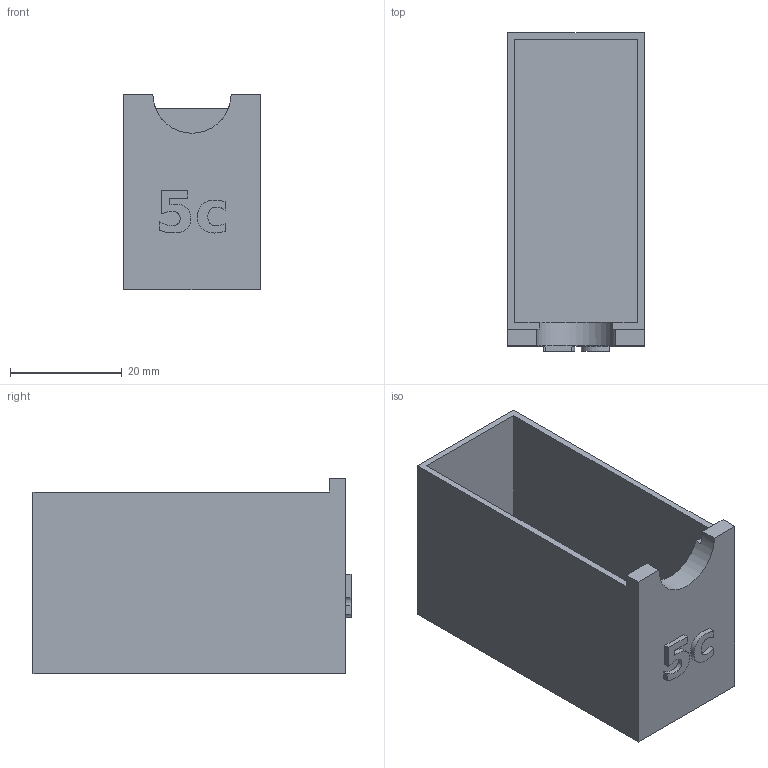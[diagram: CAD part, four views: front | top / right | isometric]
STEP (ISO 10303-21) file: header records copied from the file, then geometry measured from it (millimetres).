
FILE_DESCRIPTION(('Open CASCADE Model'),'2;1');
FILE_NAME('Open CASCADE Shape Model','2026-10-20T15:47:44',('Author'),( 'Open CASCADE'),'Open CASCADE STEP processor 8.0','build123d', 'Unknown');
FILE_SCHEMA(('AUTOMOTIVE_DESIGN { 1 0 10303 214 1 1 1 1 }'));
Length unit declared in the file: millimetre
Products named in the file (2): =>[0:1:1:2]; COMPOUND
Assembly tree (1 placements, depth 2):
  =>[0:1:1:2]
    COMPOUND
Bounding box: 24.41 x 56.84 x 35 mm (x, y, z)
Volume: 9500 mm3; surface area: 12562.7 mm2
Topology: 1 solids, 1 shells, 30 faces, 78 edges, 52 vertices
Faces by surface type: plane 25, extrusion 4, cylinder 1
Entity records: 2087 total; most frequent: CARTESIAN_POINT 533, DIRECTION 262, VECTOR 198, LINE 194, ORIENTED_EDGE 156, PCURVE 156, DEFINITIONAL_REPRESENTATION 156, EDGE_CURVE 78
